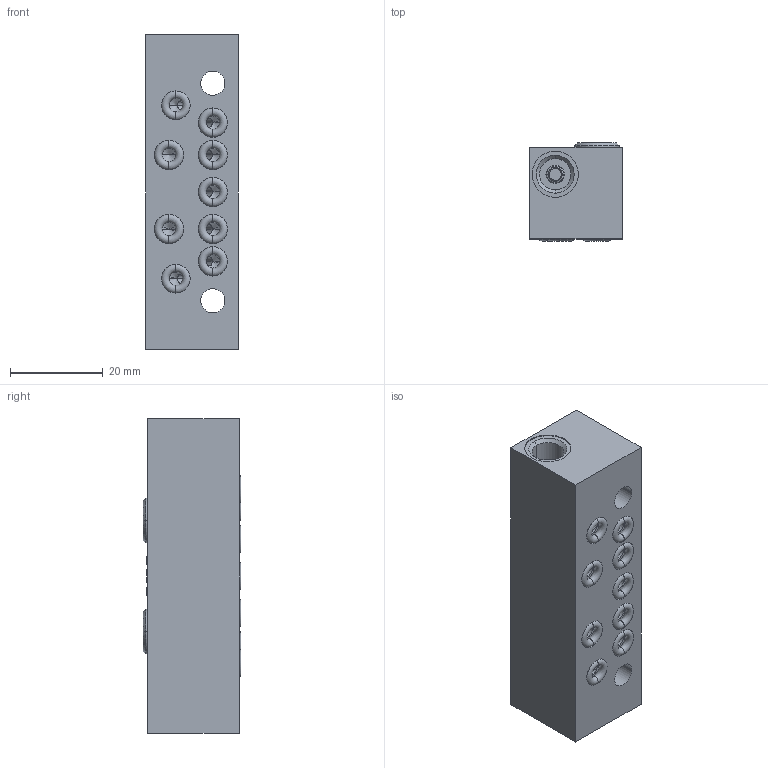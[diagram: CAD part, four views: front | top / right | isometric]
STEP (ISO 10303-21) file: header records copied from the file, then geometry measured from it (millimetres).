
FILE_DESCRIPTION((''),'2;1');
FILE_NAME('0641716_SW0001','2025-07-31T15:48:10',('lpini'),(''),'CREO PARAMETRIC BY PTC INC, 2023374','CREO PARAMETRIC BY PTC INC, 2023374','');
FILE_SCHEMA(('CONFIG_CONTROL_DESIGN'));
Length unit declared in the file: millimetre
Products named in the file (1): 0641716_SW0001
Bounding box: 20 x 21.18 x 68 mm (x, y, z)
Volume: 23588.9 mm3; surface area: 10593.6 mm2
Topology: 1 solids, 1 shells, 341 faces, 877 edges, 526 vertices
Faces by surface type: cylinder 134, cone 94, plane 83, torus 30
Entity records: 12498 total; most frequent: CARTESIAN_POINT 4361, DIRECTION 1737, ORIENTED_EDGE 1682, EDGE_CURVE 841, AXIS2_PLACEMENT_3D 713, VERTEX_POINT 526, EDGE_LOOP 379, CIRCLE 372
